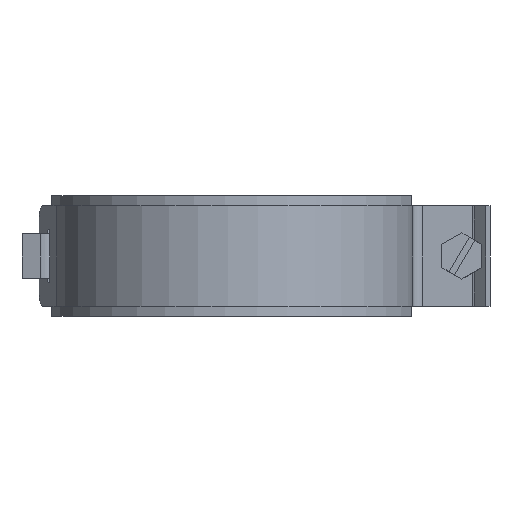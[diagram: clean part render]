
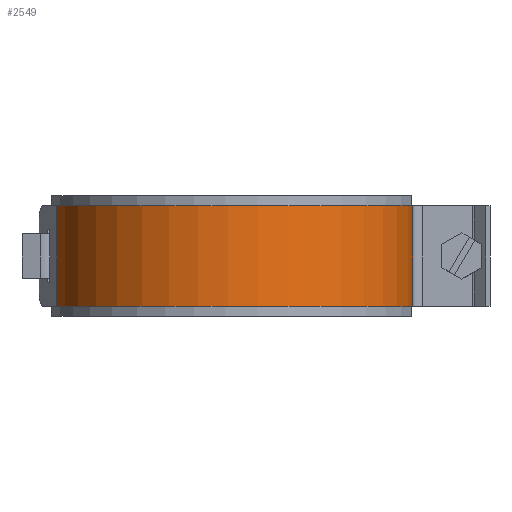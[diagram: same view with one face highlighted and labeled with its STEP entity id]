
A CAD part, front view. The second image highlights one B-rep face of the part: STEP entity #2549.
In plain terms, the highlighted cylindrical face has radius 45 mm (diameter 90 mm), a partial arc.
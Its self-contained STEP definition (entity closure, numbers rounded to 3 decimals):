
#68=CYLINDRICAL_SURFACE($,#2729,45.);
#134=FACE_OUTER_BOUND($,#271,.T.);
#271=EDGE_LOOP($,(#1763,#1764,#1765,#1766,#1767,#1768));
#417=CIRCLE($,#2730,45.);
#418=CIRCLE($,#2731,45.);
#419=CIRCLE($,#2732,45.);
#420=CIRCLE($,#2733,45.);
#577=LINE($,#3915,#824);
#578=LINE($,#3921,#825);
#824=VECTOR($,#3145,25.);
#825=VECTOR($,#3150,25.);
#1079=VERTEX_POINT($,#3913);
#1080=VERTEX_POINT($,#3914);
#1081=VERTEX_POINT($,#3916);
#1082=VERTEX_POINT($,#3918);
#1083=VERTEX_POINT($,#3920);
#1084=VERTEX_POINT($,#3922);
#1347=EDGE_CURVE($,#1079,#1080,#577,.T.);
#1348=EDGE_CURVE($,#1081,#1079,#417,.T.);
#1349=EDGE_CURVE($,#1082,#1081,#418,.T.);
#1350=EDGE_CURVE($,#1082,#1083,#578,.T.);
#1351=EDGE_CURVE($,#1084,#1083,#419,.T.);
#1352=EDGE_CURVE($,#1080,#1084,#420,.T.);
#1763=ORIENTED_EDGE($,*,*,#1347,.F.);
#1764=ORIENTED_EDGE($,*,*,#1348,.F.);
#1765=ORIENTED_EDGE($,*,*,#1349,.F.);
#1766=ORIENTED_EDGE($,*,*,#1350,.T.);
#1767=ORIENTED_EDGE($,*,*,#1351,.F.);
#1768=ORIENTED_EDGE($,*,*,#1352,.F.);
#2549=ADVANCED_FACE($,(#134),#68,.T.);
#2729=AXIS2_PLACEMENT_3D($,#3912,#3143,#3144);
#2730=AXIS2_PLACEMENT_3D($,#3917,#3146,#3147);
#2731=AXIS2_PLACEMENT_3D($,#3919,#3148,#3149);
#2732=AXIS2_PLACEMENT_3D($,#3923,#3151,#3152);
#2733=AXIS2_PLACEMENT_3D($,#3924,#3153,#3154);
#3143=DIRECTION('center_axis',(0.,0.,1.));
#3144=DIRECTION('ref_axis',(0.98,0.199,0.));
#3145=DIRECTION($,(0.,0.,-1.));
#3146=DIRECTION('center_axis',(0.,0.,1.));
#3147=DIRECTION('ref_axis',(0.98,0.199,0.));
#3148=DIRECTION('center_axis',(0.,0.,1.));
#3149=DIRECTION('ref_axis',(0.98,0.199,0.));
#3150=DIRECTION($,(0.,0.,-1.));
#3151=DIRECTION('center_axis',(0.,0.,-1.));
#3152=DIRECTION('ref_axis',(0.98,0.199,0.));
#3153=DIRECTION('center_axis',(0.,0.,-1.));
#3154=DIRECTION('ref_axis',(0.98,0.199,0.));
#3912=CARTESIAN_POINT('Origin',(0.,0.,0.));
#3913=CARTESIAN_POINT('',(44.697,-5.211,12.5));
#3914=CARTESIAN_POINT('',(44.697,-5.211,-12.5));
#3915=CARTESIAN_POINT($,(44.697,-5.211,0.));
#3916=CARTESIAN_POINT('',(43.467,-11.647,12.5));
#3917=CARTESIAN_POINT('Origin',(0.,0.,12.5));
#3918=CARTESIAN_POINT('',(-44.097,-8.972,12.5));
#3919=CARTESIAN_POINT('Origin',(0.,0.,12.5));
#3920=CARTESIAN_POINT('',(-44.097,-8.972,-12.5));
#3921=CARTESIAN_POINT($,(-44.097,-8.972,0.));
#3922=CARTESIAN_POINT('',(43.467,-11.647,-12.5));
#3923=CARTESIAN_POINT('Origin',(0.,0.,-12.5));
#3924=CARTESIAN_POINT('Origin',(0.,0.,-12.5));
